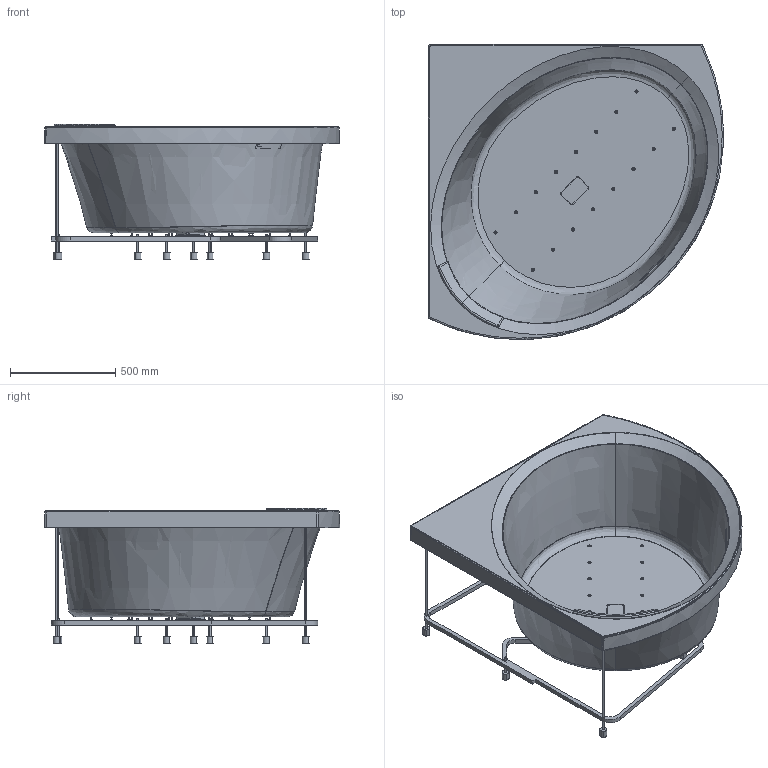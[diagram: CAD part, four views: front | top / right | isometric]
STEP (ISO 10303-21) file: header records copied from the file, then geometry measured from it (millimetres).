
FILE_DESCRIPTION(('STEP AP203'),'2;1');
FILE_NAME('DIVY140140O0-A1K.stp','2016-02-24T17:33:34',(''),(''),'2014.1.117','THINKDESIGN','');
FILE_SCHEMA(('CONFIG_CONTROL_DESIGN'));
Length unit declared in the file: millimetre
Bounding box: 1399.06 x 1399.06 x 640.8 mm (x, y, z)
Volume: 13972174 mm3; surface area: 7746450.6 mm2
Topology: 21 solids, 21 shells, 446 faces, 994 edges, 630 vertices
Faces by surface type: cylinder 222, plane 133, bspline 91
Entity records: 20256 total; most frequent: CARTESIAN_POINT 10320, DIRECTION 2076, ORIENTED_EDGE 1972, EDGE_CURVE 986, AXIS2_PLACEMENT_3D 839, VERTEX_POINT 630, EDGE_LOOP 530, CIRCLE 484
